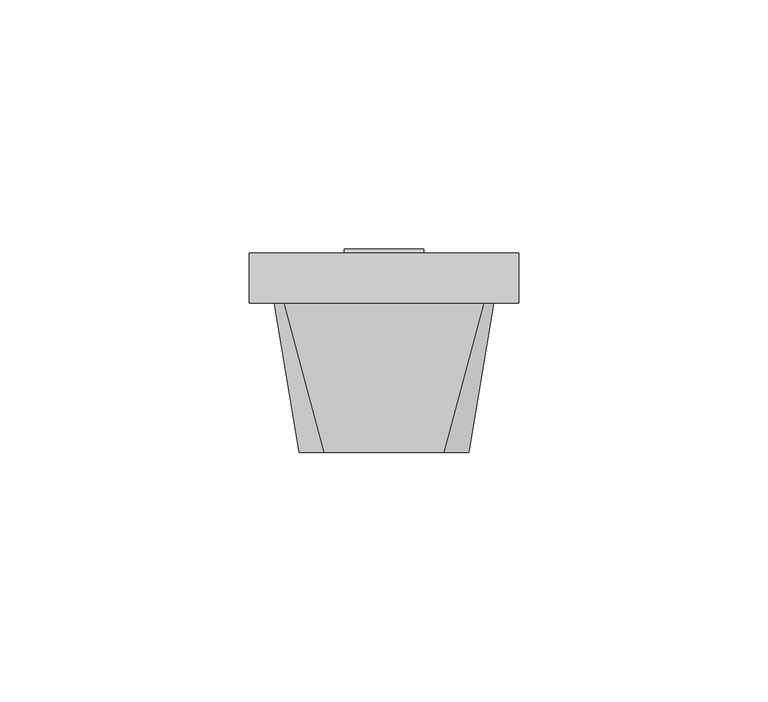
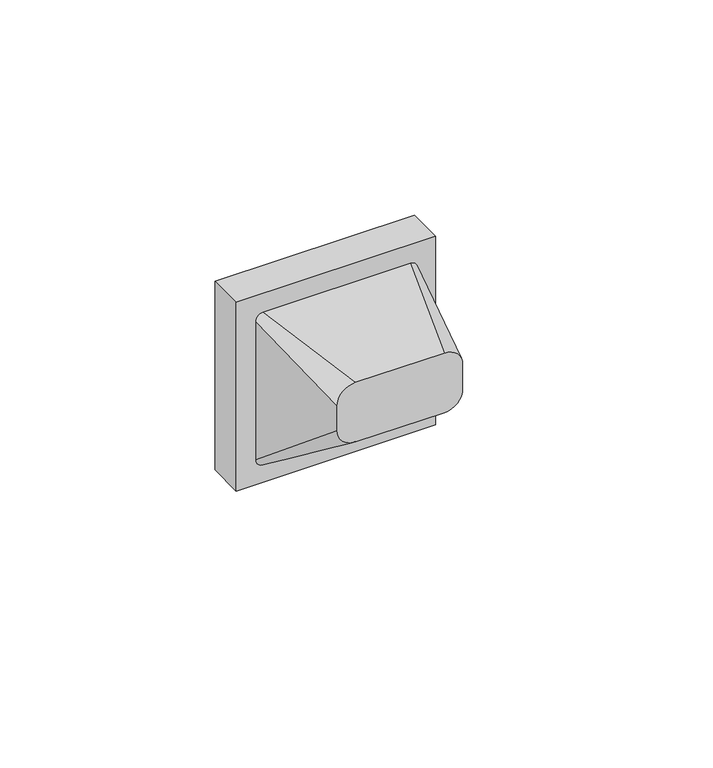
"""IFC4 building model written with IfcOpenShell, lengths in millimetres: proxy geometry, IEK_Brite_Механизм розетки информационной : RJ11_РТ10-БрБ."""

from ifc_helpers import new_model, si_unit, frame, origin, place, context, project, spatial, polyline, circle_curve, outline, extrude, faceted_brep, source, transform, mapped, element, save
from ifc_brep_helpers import plane_surface, spline_surface, advanced_brep


def electrical_fixtures_82b3f8ca(model_context):
    return source(origin(), model_context, "Body", "SolidModel", [
        faceted_brep([(-27.0, 10.0, 27.0), (27.0, 10.0, 27.0), (27.0, 10.0, -27.0), (-27.0, 10.0, -27.0), (10.0, 10.0, -10.479217), (10.0, 10.0, 10.625), (7.9601761, 10.0, 10.625), (-7.9601761, 10.0, 10.625), (-10.0, 10.0, 10.625), (-10.0, 10.0, -10.479217), (-27.0, 0.0, 27.0), (-27.0, 0.0, -27.0), (27.0, 0.0, -27.0), (27.0, 0.0, 27.0), (10.0, 4.3684205, -4.8476375), (-10.0, 4.3684205, -4.8476375), (-7.9601761, 5.1767352, -2.626811), (7.9601761, 5.1767352, -2.626811), (7.9601761, 4.2370426, -2.2847909), (-7.9601761, 4.2370426, -2.2847909), (-7.9601761, 9.0603074, 10.9670201), (7.9601761, 9.0603074, 10.9670201)], [[[0, 1, 2, 3], [4, 5, 6, 7, 8, 9]], [[10, 11, 12, 13]], [[0, 3, 11, 10]], [[3, 2, 12, 11]], [[2, 1, 13, 12]], [[1, 0, 10, 13]], [[14, 5, 4]], [[15, 9, 8]], [[14, 4, 9, 15]], [[5, 14, 15, 8, 7, 16, 17, 6]], [[18, 19, 20, 21]], [[18, 21, 6, 17]], [[21, 20, 7, 6]], [[20, 19, 16, 7]], [[19, 18, 17, 16]]]),
        extrude(outline(polyline([(0.0, -2.0472767), (0.0, 0.0), (15.9203522, 0.0), (15.9203522, -2.0472767), (0.0, -2.0472767)])), frame((-7.9601761, 10.4018122, 8.6669379), z_axis=(0.0, 0.3420201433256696, 0.9396926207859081), x_axis=(1.0, 0.0, 0.0)), (0.0, 0.0, 1.0), 1.1350324),
        advanced_brep(
        [(-12.0, -30.0, 17.0), (-17.0, -30.0, 12.0), (-17.0, -30.0, 5.0), (-12.0, -30.0, 0.0), (12.0, -30.0, 0.0), (17.0, -30.0, 5.0), (17.0, -30.0, 12.0), (12.0, -30.0, 17.0), (-20.0, 0.0, 22.0), (20.0, 0.0, 22.0), (22.0, 0.0, 20.0), (22.0, 0.0, -20.0), (20.0, 0.0, -22.0), (-20.0, 0.0, -22.0), (-22.0, 0.0, -20.0), (-22.0, 0.0, 20.0)],
        [
            (0, 1, circle_curve(frame((-12.0, -30.0, 12.0), z_axis=(0.0, -1.0, 0.0), x_axis=(1.0, 0.0, 0.0)), 5.0)),
            (1, 2),
            (2, 3, circle_curve(frame((-12.0, -30.0, 5.0), z_axis=(0.0, -1.0, 0.0), x_axis=(1.0, 0.0, 0.0)), 5.0)),
            (3, 4),
            (4, 5, circle_curve(frame((12.0, -30.0, 5.0), z_axis=(0.0, -1.0, 0.0), x_axis=(1.0, 0.0, 0.0)), 5.0)),
            (5, 6),
            (6, 7, circle_curve(frame((12.0, -30.0, 12.0), z_axis=(0.0, -1.0, 0.0), x_axis=(1.0, 0.0, 0.0)), 5.0)),
            (7, 0),
            (8, 9),
            (9, 10, circle_curve(frame((20.0, 0.0, 20.0), z_axis=(0.0, 1.0, 0.0), x_axis=(1.0, 0.0, 0.0)), 2.0)),
            (10, 11),
            (11, 12, circle_curve(frame((20.0, 0.0, -20.0), z_axis=(0.0, 1.0, 0.0), x_axis=(1.0, 0.0, 0.0)), 2.0)),
            (12, 13),
            (13, 14, circle_curve(frame((-20.0, 0.0, -20.0), z_axis=(0.0, 1.0, 0.0), x_axis=(1.0, 0.0, 0.0)), 2.0)),
            (14, 15),
            (15, 8, circle_curve(frame((-20.0, 0.0, 20.0), z_axis=(0.0, 1.0, 0.0), x_axis=(1.0, 0.0, 0.0)), 2.0)),
            (8, 0),
            (7, 9),
            (6, 10),
            (5, 11),
            (4, 12),
            (3, 13),
            (2, 14),
            (1, 15),
        ],
        [
            plane_surface(frame((0.0, -30.0, 8.5), z_axis=(0.0, -1.0, 0.0), x_axis=(-1.0, 0.0, 0.0))),
            plane_surface(frame((0.0, 0.0, 0.0), z_axis=(0.0, 1.0, 0.0), x_axis=(-1.0, 0.0, 0.0))),
            plane_surface(frame((0.0, 0.0, 22.0), z_axis=(0.0, -0.16439898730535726, 0.9863939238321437), x_axis=(-1.0, 0.0, 0.0))),
            spline_surface(2, 1, [[(22.0, 0.0, 20.0), (17.0, -30.0, 12.0)], [(22.0, 0.0, 22.0), (17.0, -30.0, 17.0)], [(20.0, 0.0, 22.0), (12.0, -30.0, 17.0)]], [3, 3], [2, 2], [0.0, 1.0], [0.0, 1.0], weights=[[1.0, 1.0], [0.7071067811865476, 0.7071067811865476], [1.0, 1.0]]),
            plane_surface(frame((22.0, 0.0, 0.0), z_axis=(0.9863939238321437, -0.1643989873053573, 0.0), x_axis=(0.0, 0.0, 1.0))),
            spline_surface(2, 1, [[(20.0, 0.0, -22.0), (12.0, -30.0, 0.0)], [(22.0, 0.0, -22.0), (17.0, -30.0, 0.0)], [(22.0, 0.0, -20.0), (17.0, -30.0, 5.0)]], [3, 3], [2, 2], [0.0, 1.0], [0.0, 1.0], weights=[[1.0, 1.0], [0.7071067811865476, 0.7071067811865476], [1.0, 1.0]]),
            plane_surface(frame((0.0, 0.0, -22.0), z_axis=(0.0, -0.591363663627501, -0.8064049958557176), x_axis=(1.0, 0.0, 0.0))),
            spline_surface(2, 1, [[(-22.0, 0.0, -20.0), (-17.0, -30.0, 5.0)], [(-22.0, 0.0, -22.0), (-17.0, -30.0, 0.0)], [(-20.0, 0.0, -22.0), (-12.0, -30.0, 0.0)]], [3, 3], [2, 2], [0.0, 1.0], [0.0, 1.0], weights=[[1.0, 1.0], [0.7071067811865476, 0.7071067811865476], [1.0, 1.0]]),
            plane_surface(frame((-22.0, 0.0, 0.0), z_axis=(-0.9863939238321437, -0.1643989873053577, 0.0), x_axis=(0.0, 0.0, -1.0))),
            spline_surface(2, 1, [[(-20.0, 0.0, 22.0), (-12.0, -30.0, 17.0)], [(-22.0, 0.0, 22.0), (-17.0, -30.0, 17.0)], [(-22.0, 0.0, 20.0), (-17.0, -30.0, 12.0)]], [3, 3], [2, 2], [0.0, 1.0], [0.0, 1.0], weights=[[1.0, 1.0], [0.7071067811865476, 0.7071067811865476], [1.0, 1.0]]),
        ],
        [
            (0, [[1, 2, 3, 4, 5, 6, 7, 8]]),
            (1, [[9, 10, 11, 12, 13, 14, 15, 16]]),
            (2, [[-9, 17, -8, 18]]),
            (3, [[-10, -18, -7, 19]]),
            (4, [[-11, -19, -6, 20]]),
            (5, [[-12, -20, -5, 21]]),
            (6, [[-13, -21, -4, 22]]),
            (7, [[-14, -22, -3, 23]]),
            (8, [[-15, -23, -2, 24]]),
            (9, [[-16, -24, -1, -17]]),
        ],
    ),
    ])


if __name__ == "__main__":
    model = new_model("IFC4")
    model_context = context("Model", 3, world=origin())
    ifc_project = project(units=[si_unit("LENGTHUNIT", "METRE", prefix="MILLI")], contexts=[model_context])
    site = spatial("IfcSite", under=ifc_project)
    building = spatial("IfcBuilding", under=site)
    placement = place(None, origin())
    electrical_fixtures_shape = electrical_fixtures_82b3f8ca(model_context)
    element("IfcBuildingElementProxy", 1, Name="IEK_Brite_Механизм розетки информационной : RJ11_РТ10-БрБ", ObjectType="IEK_Brite_Механизм розетки информационной : RJ11_РТ10-БрБ", at=placement, inside=building, context=model_context, shape_type="MappedRepresentation", body=[
        mapped(electrical_fixtures_shape, transform((0.0, 0.0, 0.0), x_axis=(1.0, 0.0, 0.0), y_axis=(0.0, 1.0, 0.0), z_axis=(0.0, 0.0, 1.0))),
    ])
    save(model, "model.ifc")
